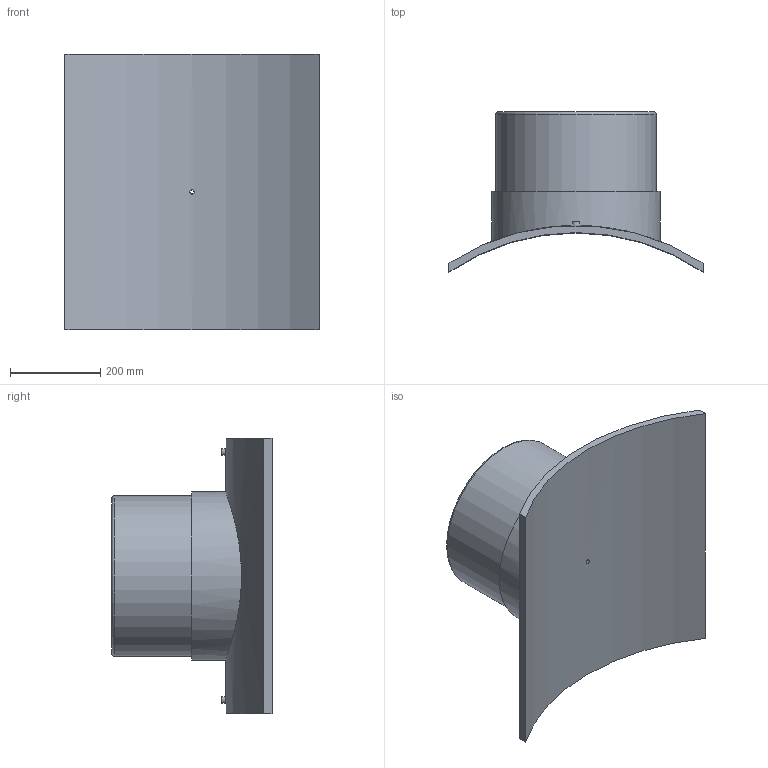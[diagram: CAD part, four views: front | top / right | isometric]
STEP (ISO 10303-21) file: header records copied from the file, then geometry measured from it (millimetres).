
FILE_DESCRIPTION(/* description */ ('PLASSON BRANCH SADDLE 1000x355'),/* implementation_level */ '2;1');
FILE_NAME(/* name */ 'C:\Dropbox\99-16-3568-Processing\ElectroFusion Fittings\495803\4958031000355T.ipt.stp',/* time_stamp */ '2021-02-25T09:43:22+02:00',/* author */ ('KIM'),/* organization */ (''),/* preprocessor_version */ 'ST-DEVELOPER v17.2',/* originating_system */ 'Autodesk Inventor 2019',/* authorisation */ '');
FILE_SCHEMA (('AUTOMOTIVE_DESIGN { 1 0 10303 214 3 1 1 }'));
Length unit declared in the file: millimetre
Products named in the file (1): 4958031000355T
Bounding box: 563 x 354.77 x 610 mm (x, y, z)
Volume: 16197684.1 mm3; surface area: 1316640.5 mm2
Topology: 1 solids, 1 shells, 29 faces, 60 edges, 43 vertices
Faces by surface type: plane 13, cylinder 12, torus 2, cone 2
Full cylindrical faces by diameter (mm): 4 x2, 9.6 x1, 10 x2, 16 x1, 284 x1, 355 x1, 372.75 x1
Entity records: 1102 total; most frequent: CARTESIAN_POINT 416, DIRECTION 139, ORIENTED_EDGE 120, EDGE_CURVE 60, AXIS2_PLACEMENT_3D 60, VERTEX_POINT 43, EDGE_LOOP 41, CIRCLE 30
